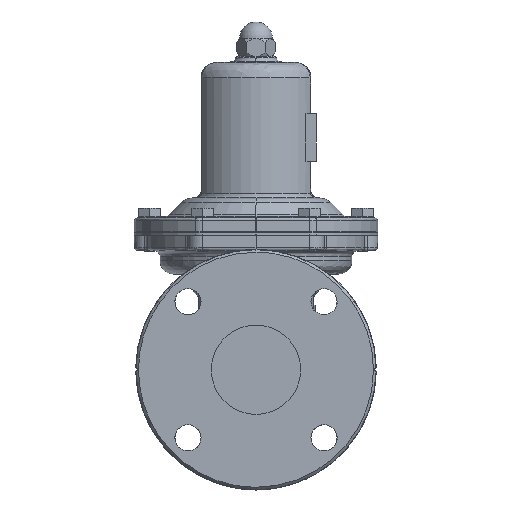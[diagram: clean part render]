
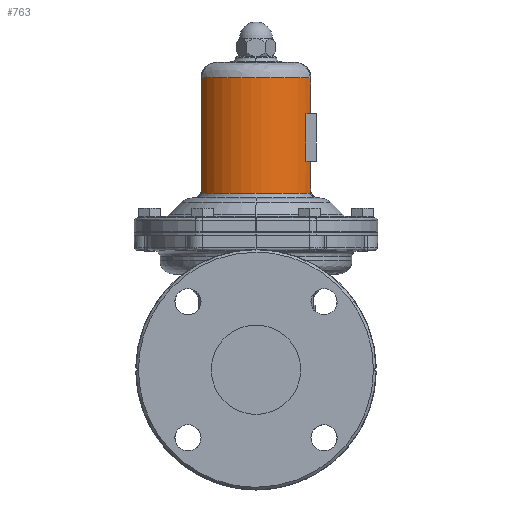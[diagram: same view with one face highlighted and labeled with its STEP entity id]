
A CAD part, left-side view. The second image highlights one B-rep face of the part: STEP entity #763.
In plain terms, the highlighted cylindrical face has radius 45 mm (diameter 90 mm), a partial arc.
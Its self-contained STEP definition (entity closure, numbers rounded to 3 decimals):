
#763=ADVANCED_FACE('',(#5936),#5935,.T.);
#5935=CYLINDRICAL_SURFACE('',#31759,45.);
#5936=FACE_OUTER_BOUND('',#31760,.T.);
#31756=CARTESIAN_POINT('',(0.,0.,70.939));
#31757=DIRECTION('',(0.,0.,-1.));
#31758=DIRECTION('',(-0.479,-0.878,0.));
#31759=AXIS2_PLACEMENT_3D('',#31756,#31757,#31758);
#31760=EDGE_LOOP('',(#37857,#37858,#37859,#37860,#37861,#37862,#37863,#37864,#37865,#37866,#37867,#37868));
#37857=ORIENTED_EDGE('',*,*,#39979,.F.);
#37858=ORIENTED_EDGE('',*,*,#40006,.T.);
#37859=ORIENTED_EDGE('',*,*,#39968,.T.);
#37860=ORIENTED_EDGE('',*,*,#39963,.T.);
#37861=ORIENTED_EDGE('',*,*,#40007,.T.);
#37862=ORIENTED_EDGE('',*,*,#40008,.T.);
#37863=ORIENTED_EDGE('',*,*,#40009,.T.);
#37864=ORIENTED_EDGE('',*,*,#40010,.T.);
#37865=ORIENTED_EDGE('',*,*,#40011,.T.);
#37866=ORIENTED_EDGE('',*,*,#40012,.T.);
#37867=ORIENTED_EDGE('',*,*,#40013,.F.);
#37868=ORIENTED_EDGE('',*,*,#40014,.F.);
#39963=EDGE_CURVE('',#47946,#47939,#47947,.T.);
#39968=EDGE_CURVE('',#47960,#47946,#47980,.T.);
#39979=EDGE_CURVE('',#48047,#48055,#48056,.T.);
#40006=EDGE_CURVE('',#48047,#47960,#48235,.T.);
#40007=EDGE_CURVE('',#47939,#48241,#48242,.T.);
#40008=EDGE_CURVE('',#48241,#48248,#48249,.T.);
#40009=EDGE_CURVE('',#48248,#48255,#48256,.T.);
#40010=EDGE_CURVE('',#48255,#48262,#48263,.T.);
#40011=EDGE_CURVE('',#48262,#48269,#48270,.T.);
#40012=EDGE_CURVE('',#48269,#48276,#48277,.T.);
#40013=EDGE_CURVE('',#48283,#48276,#48284,.T.);
#40014=EDGE_CURVE('',#48055,#48283,#48290,.T.);
#47939=VERTEX_POINT('',#60070);
#47946=VERTEX_POINT('',#60095);
#47947=CIRCLE('',#60099,45.);
#47960=VERTEX_POINT('',#60125);
#47980=CIRCLE('',#60142,2.582);
#48047=VERTEX_POINT('',#60226);
#48055=VERTEX_POINT('',#60232);
#48056=CIRCLE('',#60236,45.);
#48235=LINE('',#60389,#60390);
#48241=VERTEX_POINT('',#60392);
#48242=CIRCLE('',#60396,2.582);
#48248=VERTEX_POINT('',#60397);
#48249=LINE('',#60398,#60399);
#48255=VERTEX_POINT('',#60401);
#48256=(BOUNDED_CURVE() B_SPLINE_CURVE(3,(#60402,#60403,#60404,#60405,#60406,#60407),.UNSPECIFIED.,.F.,.F.) B_SPLINE_CURVE_WITH_KNOTS((4,2,4),(0.,0.001,0.002),.UNSPECIFIED.) CURVE() GEOMETRIC_REPRESENTATION_ITEM() RATIONAL_B_SPLINE_CURVE((1.,1.,1.,1.,1.,1.)) REPRESENTATION_ITEM('') );
#48262=VERTEX_POINT('',#60408);
#48263=CIRCLE('',#60412,45.);
#48269=VERTEX_POINT('',#60413);
#48270=(BOUNDED_CURVE() B_SPLINE_CURVE(3,(#60414,#60415,#60416,#60417),.UNSPECIFIED.,.F.,.F.) B_SPLINE_CURVE_WITH_KNOTS((4,4),(0.,0.002),.UNSPECIFIED.) CURVE() GEOMETRIC_REPRESENTATION_ITEM() RATIONAL_B_SPLINE_CURVE((1.,1.,1.,1.)) REPRESENTATION_ITEM('') );
#48276=VERTEX_POINT('',#60418);
#48277=LINE('',#60419,#60420);
#48283=VERTEX_POINT('',#60422);
#48284=CIRCLE('',#60426,45.);
#48290=LINE('',#60427,#60428);
#60070=CARTESIAN_POINT('',(-21.786,39.375,112.877));
#60095=CARTESIAN_POINT('',(-21.786,-39.375,112.877));
#60096=CARTESIAN_POINT('',(0.,0.,112.877));
#60097=DIRECTION('',(0.,0.,-1.));
#60098=DIRECTION('',(0.484,0.875,0.));
#60099=AXIS2_PLACEMENT_3D('',#60096,#60097,#60098);
#60125=CARTESIAN_POINT('',(-21.786,-39.375,112.847));
#60139=CARTESIAN_POINT('',(-24.045,-38.125,112.847));
#60140=DIRECTION('',(-0.484,-0.875,0.));
#60141=DIRECTION('',(-0.875,0.484,0.));
#60142=AXIS2_PLACEMENT_3D('',#60139,#60140,#60141);
#60226=CARTESIAN_POINT('',(-21.786,-39.375,86.75));
#60232=CARTESIAN_POINT('',(-26.5,-36.37,86.75));
#60233=CARTESIAN_POINT('',(0.,0.,86.75));
#60234=DIRECTION('',(0.,0.,-1.));
#60235=DIRECTION('',(0.484,0.875,0.));
#60236=AXIS2_PLACEMENT_3D('',#60233,#60234,#60235);
#60389=CARTESIAN_POINT('',(-21.786,-39.375,86.75));
#60390=VECTOR('',#60391,26.097);
#60391=DIRECTION('',(0.,0.,1.));
#60392=CARTESIAN_POINT('',(-21.786,39.375,112.847));
#60393=CARTESIAN_POINT('',(-24.045,38.125,112.847));
#60394=DIRECTION('',(-0.484,0.875,0.));
#60395=DIRECTION('',(-0.875,-0.484,-0.012));
#60396=AXIS2_PLACEMENT_3D('',#60393,#60394,#60395);
#60397=CARTESIAN_POINT('',(-21.786,39.375,30.5));
#60398=CARTESIAN_POINT('',(-21.786,39.375,112.847));
#60399=VECTOR('',#60400,82.347);
#60400=DIRECTION('',(0.,0.,-1.));
#60401=CARTESIAN_POINT('',(-21.554,39.502,29.));
#60402=CARTESIAN_POINT('',(-21.786,39.375,30.5));
#60403=CARTESIAN_POINT('',(-21.786,39.375,30.244));
#60404=CARTESIAN_POINT('',(-21.765,39.386,29.988));
#60405=CARTESIAN_POINT('',(-21.687,39.429,29.487));
#60406=CARTESIAN_POINT('',(-21.629,39.461,29.241));
#60407=CARTESIAN_POINT('',(-21.554,39.502,29.));
#60408=CARTESIAN_POINT('',(-21.554,-39.502,29.));
#60409=CARTESIAN_POINT('',(0.,0.,29.));
#60410=DIRECTION('',(0.,0.,1.));
#60411=DIRECTION('',(0.479,-0.878,0.));
#60412=AXIS2_PLACEMENT_3D('',#60409,#60410,#60411);
#60413=CARTESIAN_POINT('',(-21.786,-39.375,30.5));
#60414=CARTESIAN_POINT('',(-21.554,-39.502,29.));
#60415=CARTESIAN_POINT('',(-21.706,-39.419,29.486));
#60416=CARTESIAN_POINT('',(-21.786,-39.375,29.985));
#60417=CARTESIAN_POINT('',(-21.786,-39.375,30.5));
#60418=CARTESIAN_POINT('',(-21.786,-39.375,52.25));
#60419=CARTESIAN_POINT('',(-21.786,-39.375,30.5));
#60420=VECTOR('',#60421,21.75);
#60421=DIRECTION('',(0.,0.,1.));
#60422=CARTESIAN_POINT('',(-26.5,-36.37,52.25));
#60423=CARTESIAN_POINT('',(0.,0.,52.25));
#60424=DIRECTION('',(0.,0.,1.));
#60425=DIRECTION('',(0.589,0.808,0.));
#60426=AXIS2_PLACEMENT_3D('',#60423,#60424,#60425);
#60427=CARTESIAN_POINT('',(-26.5,-36.37,86.75));
#60428=VECTOR('',#60429,34.5);
#60429=DIRECTION('',(0.,0.,-1.));
